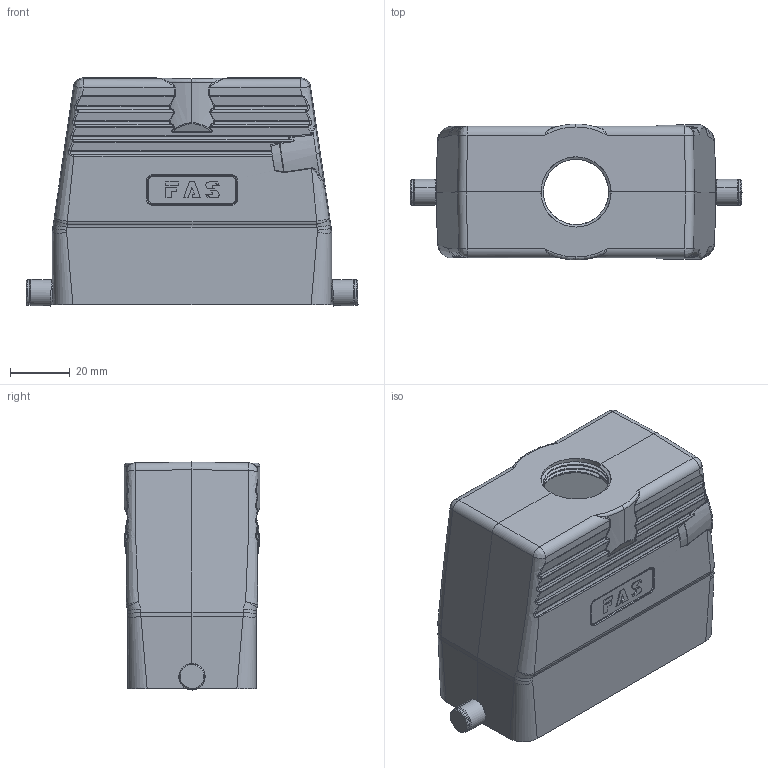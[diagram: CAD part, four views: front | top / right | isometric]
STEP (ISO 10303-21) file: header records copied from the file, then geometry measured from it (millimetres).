
FILE_DESCRIPTION (( 'STEP AP203' ), '1' );
FILE_NAME ('H16B-TGH-RO-M25&32&40.STEP', '2020-11-21T05:43:42', ( '' ), ( '' ), 'SwSTEP 2.0', 'SolidWorks 2016', '' );
FILE_SCHEMA (( 'CONFIG_CONTROL_DESIGN' ));
Length unit declared in the file: millimetre
Products named in the file (4): H16B-TGH-RO-M25&32&40; H16B-TGH-M25 奻褲; PRT0004; PRT0001
Assembly tree (5 placements, depth 2):
  H16B-TGH-RO-M25&32&40
    PRT0001  x2
    PRT0004  x2
    H16B-TGH-M25 奻褲
Bounding box: 111.17 x 45.5 x 76.35 mm (x, y, z)
Volume: 92328.4 mm3; surface area: 43734.8 mm2
Topology: 5 solids, 5 shells, 699 faces, 1686 edges, 1025 vertices
Faces by surface type: bspline 227, cylinder 223, plane 186, cone 63
Entity records: 30706 total; most frequent: CARTESIAN_POINT 16875, ORIENTED_EDGE 3236, DIRECTION 2140, EDGE_CURVE 1618, VERTEX_POINT 983, AXIS2_PLACEMENT_3D 757, EDGE_LOOP 699, FACE_OUTER_BOUND 668
